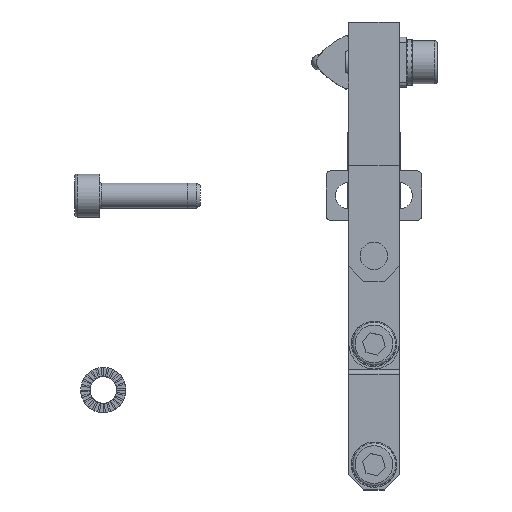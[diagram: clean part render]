
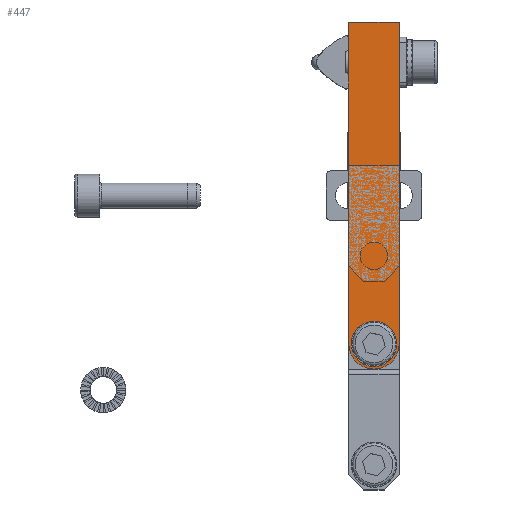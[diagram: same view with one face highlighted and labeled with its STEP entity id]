
A CAD part, top view. The second image highlights one B-rep face of the part: STEP entity #447.
In plain terms, the highlighted planar face has unit normal (0, 0, 1).
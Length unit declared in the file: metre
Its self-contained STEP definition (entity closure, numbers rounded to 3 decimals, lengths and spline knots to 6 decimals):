
#447 = ADVANCED_FACE( '', ( #963, #964 ), #965, .F. );
#963 = FACE_BOUND( '', #1619, .T. );
#964 = FACE_OUTER_BOUND( '', #1620, .T. );
#965 = PLANE( '', #1621 );
#1619 = EDGE_LOOP( '', ( #3678 ) );
#1620 = EDGE_LOOP( '', ( #3679, #3680, #3681, #3682 ) );
#1621 = AXIS2_PLACEMENT_3D( '', #3683, #3684, #3685 );
#3678 = ORIENTED_EDGE( '', *, *, #5101, .F. );
#3679 = ORIENTED_EDGE( '', *, *, #5097, .T. );
#3680 = ORIENTED_EDGE( '', *, *, #5086, .T. );
#3681 = ORIENTED_EDGE( '', *, *, #5069, .F. );
#3682 = ORIENTED_EDGE( '', *, *, #5102, .T. );
#3683 = CARTESIAN_POINT( '', ( 0.005, 0.0345, 0.01 ) );
#3684 = DIRECTION( '', ( 0., 0., -1. ) );
#3685 = DIRECTION( '', ( -1., 0., 0. ) );
#5069 = EDGE_CURVE( '', #6311, #6313, #6314, .T. );
#5086 = EDGE_CURVE( '', #6342, #6313, #6343, .F. );
#5097 = EDGE_CURVE( '', #6363, #6342, #6364, .T. );
#5101 = EDGE_CURVE( '', #6369, #6369, #6370, .T. );
#5102 = EDGE_CURVE( '', #6311, #6363, #6371, .T. );
#6311 = VERTEX_POINT( '', #8123 );
#6313 = VERTEX_POINT( '', #8126 );
#6314 = LINE( '', #8127, #8128 );
#6342 = VERTEX_POINT( '', #8166 );
#6343 = CIRCLE( '', #8167, 0.005 );
#6363 = VERTEX_POINT( '', #8194 );
#6364 = LINE( '', #8195, #8196 );
#6369 = VERTEX_POINT( '', #8203 );
#6370 = CIRCLE( '', #8204, 0.0026 );
#6371 = LINE( '', #8205, #8206 );
#8123 = CARTESIAN_POINT( '', ( 0.005, 0.0345, 0.01 ) );
#8126 = CARTESIAN_POINT( '', ( 0.005, -0.0295, 0.01 ) );
#8127 = CARTESIAN_POINT( '', ( 0.005, 0.0345, 0.01 ) );
#8128 = VECTOR( '', #9837, 1. );
#8166 = CARTESIAN_POINT( '', ( -0.005, -0.0295, 0.01 ) );
#8167 = AXIS2_PLACEMENT_3D( '', #9866, #9867, #9868 );
#8194 = CARTESIAN_POINT( '', ( -0.005, 0.0345, 0.01 ) );
#8195 = CARTESIAN_POINT( '', ( -0.005, 0.0345, 0.01 ) );
#8196 = VECTOR( '', #9885, 1. );
#8203 = CARTESIAN_POINT( '', ( 0., -0.0321, 0.01 ) );
#8204 = AXIS2_PLACEMENT_3D( '', #9891, #9892, #9893 );
#8205 = CARTESIAN_POINT( '', ( 0.005, 0.0345, 0.01 ) );
#8206 = VECTOR( '', #9894, 1. );
#9837 = DIRECTION( '', ( 0., -1., 0. ) );
#9866 = CARTESIAN_POINT( '', ( 0., -0.0295, 0.01 ) );
#9867 = DIRECTION( '', ( 0., 0., -1. ) );
#9868 = DIRECTION( '', ( -1., 0., 0. ) );
#9885 = DIRECTION( '', ( 0., -1., 0. ) );
#9891 = CARTESIAN_POINT( '', ( 0., -0.0295, 0.01 ) );
#9892 = DIRECTION( '', ( 0., 0., 1. ) );
#9893 = DIRECTION( '', ( 0., -1., 0. ) );
#9894 = DIRECTION( '', ( -1., 0., 0. ) );
